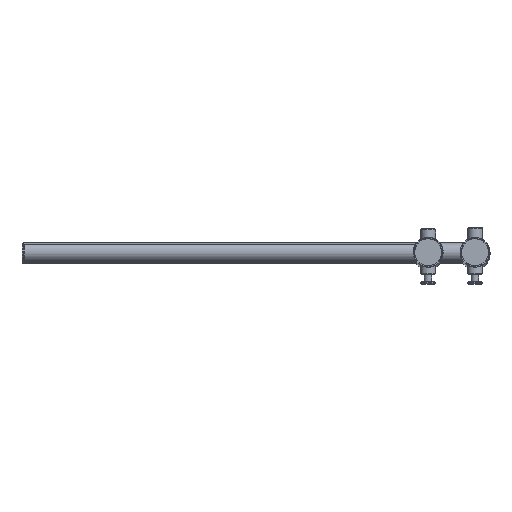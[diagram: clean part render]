
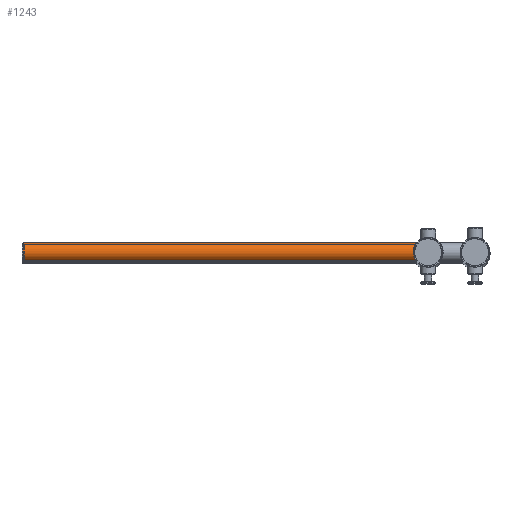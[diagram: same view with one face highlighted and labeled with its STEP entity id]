
A CAD part, top view. The second image highlights one B-rep face of the part: STEP entity #1243.
In plain terms, the highlighted cylindrical face has radius 10 mm (diameter 20 mm), a full revolution.
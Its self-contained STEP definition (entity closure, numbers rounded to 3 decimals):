
#262=CIRCLE('',#1614,10.);
#263=CIRCLE('',#1615,10.);
#412=ORIENTED_EDGE('',*,*,#568,.T.);
#413=ORIENTED_EDGE('',*,*,#569,.F.);
#568=EDGE_CURVE('',#672,#672,#262,.T.);
#569=EDGE_CURVE('',#673,#673,#263,.T.);
#672=VERTEX_POINT('',#3121);
#673=VERTEX_POINT('',#3123);
#870=EDGE_LOOP('',(#412));
#871=EDGE_LOOP('',(#413));
#1070=FACE_BOUND('',#870,.T.);
#1071=FACE_BOUND('',#871,.T.);
#1191=CYLINDRICAL_SURFACE('',#1613,10.);
#1243=ADVANCED_FACE('',(#1070,#1071),#1191,.T.);
#1613=AXIS2_PLACEMENT_3D('',#3119,#1849,#1850);
#1614=AXIS2_PLACEMENT_3D('',#3120,#1851,#1852);
#1615=AXIS2_PLACEMENT_3D('',#3122,#1853,#1854);
#1849=DIRECTION('',(-1.,0.,0.));
#1850=DIRECTION('',(0.,0.,1.));
#1851=DIRECTION('',(-1.,0.,0.));
#1852=DIRECTION('',(0.,1.,0.));
#1853=DIRECTION('',(-1.,0.,0.));
#1854=DIRECTION('',(0.,1.,0.));
#3119=CARTESIAN_POINT('',(211.25,0.,0.));
#3120=CARTESIAN_POINT('',(211.25,0.,0.));
#3121=CARTESIAN_POINT('',(211.25,10.,0.));
#3122=CARTESIAN_POINT('',(-211.25,0.,0.));
#3123=CARTESIAN_POINT('',(-211.25,10.,0.));
